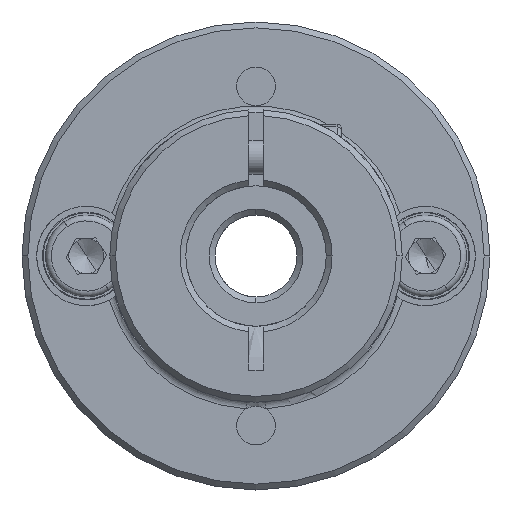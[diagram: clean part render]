
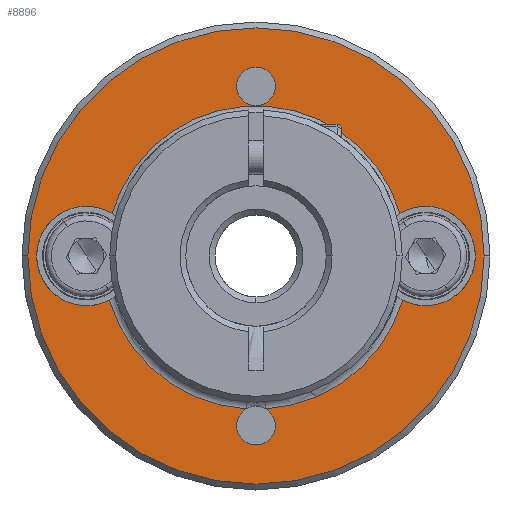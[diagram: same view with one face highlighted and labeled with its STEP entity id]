
A CAD part, front view. The second image highlights one B-rep face of the part: STEP entity #8896.
In plain terms, the highlighted planar face has unit normal (0, -1, 0).
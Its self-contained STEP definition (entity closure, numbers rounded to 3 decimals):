
#79 = DIRECTION ( 'NONE',  ( 1., 0., 0. ) ) ;
#83 = DIRECTION ( 'NONE',  ( 0., 1., 0. ) ) ;
#238 = ORIENTED_EDGE ( 'NONE', *, *, #482, .T. ) ;
#262 = DIRECTION ( 'NONE',  ( 0., 1., 0. ) ) ;
#338 = EDGE_LOOP ( 'NONE', ( #9544, #10048, #1078, #8771, #6401, #1171, #6311, #238, #4527, #6474 ) ) ;
#428 = VERTEX_POINT ( 'NONE', #4419 ) ;
#444 = DIRECTION ( 'NONE',  ( 1., 0., 0. ) ) ;
#482 = EDGE_CURVE ( 'NONE', #3003, #428, #10573, .T. ) ;
#597 = DIRECTION ( 'NONE',  ( 1., 0., 0. ) ) ;
#647 = EDGE_CURVE ( 'NONE', #2196, #12151, #3627, .T. ) ;
#695 = CIRCLE ( 'NONE', #3391, 4.25 ) ;
#730 = VERTEX_POINT ( 'NONE', #4478 ) ;
#771 = ORIENTED_EDGE ( 'NONE', *, *, #8359, .T. ) ;
#883 = EDGE_LOOP ( 'NONE', ( #3316, #11861 ) ) ;
#970 = EDGE_CURVE ( 'NONE', #5764, #7181, #12702, .T. ) ;
#976 = DIRECTION ( 'NONE',  ( 1., 0., 0. ) ) ;
#1076 = CARTESIAN_POINT ( 'NONE',  ( -26.505, -13.63, 40. ) ) ;
#1078 = ORIENTED_EDGE ( 'NONE', *, *, #9602, .T. ) ;
#1171 = ORIENTED_EDGE ( 'NONE', *, *, #2914, .T. ) ;
#1175 = DIRECTION ( 'NONE',  ( 0., 1., 0. ) ) ;
#1205 = FACE_BOUND ( 'NONE', #338, .T. ) ;
#1452 = DIRECTION ( 'NONE',  ( 1., 0., 0. ) ) ;
#1557 = CARTESIAN_POINT ( 'NONE',  ( -12.005, -13.63, 40. ) ) ;
#1794 = CIRCLE ( 'NONE', #2986, 1.65 ) ;
#1808 = CIRCLE ( 'NONE', #3280, 1.65 ) ;
#1918 = CARTESIAN_POINT ( 'NONE',  ( -26.505, -13.63, 40. ) ) ;
#2070 = DIRECTION ( 'NONE',  ( 1., 0., 0. ) ) ;
#2192 = AXIS2_PLACEMENT_3D ( 'NONE', #9812, #9984, #10806 ) ;
#2196 = VERTEX_POINT ( 'NONE', #4887 ) ;
#2230 = DIRECTION ( 'NONE',  ( 1., 0., 0. ) ) ;
#2324 = AXIS2_PLACEMENT_3D ( 'NONE', #1918, #9725, #10807 ) ;
#2608 = DIRECTION ( 'NONE',  ( 1., 0., 0. ) ) ;
#2816 = AXIS2_PLACEMENT_3D ( 'NONE', #6071, #10983, #79 ) ;
#2874 = VERTEX_POINT ( 'NONE', #3696 ) ;
#2914 = EDGE_CURVE ( 'NONE', #5687, #8175, #6591, .T. ) ;
#2979 = PLANE ( 'NONE',  #7662 ) ;
#2986 = AXIS2_PLACEMENT_3D ( 'NONE', #7964, #4162, #7020 ) ;
#3003 = VERTEX_POINT ( 'NONE', #11795 ) ;
#3025 = DIRECTION ( 'NONE',  ( 0., -1., 0. ) ) ;
#3084 = CIRCLE ( 'NONE', #10455, 4.25 ) ;
#3123 = ORIENTED_EDGE ( 'NONE', *, *, #647, .T. ) ;
#3280 = AXIS2_PLACEMENT_3D ( 'NONE', #4629, #11556, #2608 ) ;
#3301 = AXIS2_PLACEMENT_3D ( 'NONE', #9828, #83, #4917 ) ;
#3316 = ORIENTED_EDGE ( 'NONE', *, *, #9572, .T. ) ;
#3391 = AXIS2_PLACEMENT_3D ( 'NONE', #6186, #9922, #2070 ) ;
#3627 = CIRCLE ( 'NONE', #11035, 19.5 ) ;
#3643 = VERTEX_POINT ( 'NONE', #5761 ) ;
#3696 = CARTESIAN_POINT ( 'NONE',  ( -12.834, -13.63, 26.926 ) ) ;
#3718 = EDGE_CURVE ( 'NONE', #3643, #11049, #695, .T. ) ;
#3812 = FACE_OUTER_BOUND ( 'NONE', #8616, .T. ) ;
#3964 = CIRCLE ( 'NONE', #2192, 19.5 ) ;
#4084 = CARTESIAN_POINT ( 'NONE',  ( -12.005, -13.63, 25.5 ) ) ;
#4162 = DIRECTION ( 'NONE',  ( 0., 1., 0. ) ) ;
#4419 = CARTESIAN_POINT ( 'NONE',  ( -13.655, -13.63, 25.5 ) ) ;
#4472 = VERTEX_POINT ( 'NONE', #7029 ) ;
#4475 = CARTESIAN_POINT ( 'NONE',  ( 2.495, -13.63, 40. ) ) ;
#4478 = CARTESIAN_POINT ( 'NONE',  ( -10.355, -13.63, 54.5 ) ) ;
#4527 = ORIENTED_EDGE ( 'NONE', *, *, #6180, .T. ) ;
#4629 = CARTESIAN_POINT ( 'NONE',  ( -12.005, -13.63, 54.5 ) ) ;
#4776 = CARTESIAN_POINT ( 'NONE',  ( 6.745, -13.63, 40. ) ) ;
#4887 = CARTESIAN_POINT ( 'NONE',  ( 7.495, -13.63, 40. ) ) ;
#4917 = DIRECTION ( 'NONE',  ( 1., 0., 0. ) ) ;
#4932 = EDGE_CURVE ( 'NONE', #4472, #5764, #8830, .T. ) ;
#5414 = AXIS2_PLACEMENT_3D ( 'NONE', #12395, #8421, #597 ) ;
#5687 = VERTEX_POINT ( 'NONE', #7343 ) ;
#5761 = CARTESIAN_POINT ( 'NONE',  ( 0.298, -13.63, 43.638 ) ) ;
#5764 = VERTEX_POINT ( 'NONE', #8358 ) ;
#6071 = CARTESIAN_POINT ( 'NONE',  ( -12.005, -13.63, 40. ) ) ;
#6180 = EDGE_CURVE ( 'NONE', #428, #2874, #7437, .T. ) ;
#6186 = CARTESIAN_POINT ( 'NONE',  ( 2.495, -13.63, 40. ) ) ;
#6231 = AXIS2_PLACEMENT_3D ( 'NONE', #10416, #7449, #1452 ) ;
#6311 = ORIENTED_EDGE ( 'NONE', *, *, #7147, .T. ) ;
#6401 = ORIENTED_EDGE ( 'NONE', *, *, #7519, .T. ) ;
#6474 = ORIENTED_EDGE ( 'NONE', *, *, #10864, .T. ) ;
#6476 = DIRECTION ( 'NONE',  ( 0., -1., 0. ) ) ;
#6591 = CIRCLE ( 'NONE', #3301, 13.1 ) ;
#6886 = AXIS2_PLACEMENT_3D ( 'NONE', #4084, #1175, #11072 ) ;
#6912 = CARTESIAN_POINT ( 'NONE',  ( -13.655, -13.63, 54.5 ) ) ;
#6948 = DIRECTION ( 'NONE',  ( 1., 0., 0. ) ) ;
#7012 = DIRECTION ( 'NONE',  ( 1., 0., 0. ) ) ;
#7020 = DIRECTION ( 'NONE',  ( 1., 0., 0. ) ) ;
#7029 = CARTESIAN_POINT ( 'NONE',  ( -24.55, -13.63, 36.226 ) ) ;
#7147 = EDGE_CURVE ( 'NONE', #8175, #3003, #9409, .T. ) ;
#7181 = VERTEX_POINT ( 'NONE', #11329 ) ;
#7343 = CARTESIAN_POINT ( 'NONE',  ( 0.54, -13.63, 36.226 ) ) ;
#7437 = CIRCLE ( 'NONE', #6886, 1.65 ) ;
#7449 = DIRECTION ( 'NONE',  ( 0., 1., 0. ) ) ;
#7494 = AXIS2_PLACEMENT_3D ( 'NONE', #1076, #7911, #7012 ) ;
#7519 = EDGE_CURVE ( 'NONE', #11049, #5687, #3084, .T. ) ;
#7617 = CARTESIAN_POINT ( 'NONE',  ( -11.175, -13.63, 26.926 ) ) ;
#7662 = AXIS2_PLACEMENT_3D ( 'NONE', #11976, #3025, #6948 ) ;
#7817 = DIRECTION ( 'NONE',  ( 0., 1., 0. ) ) ;
#7911 = DIRECTION ( 'NONE',  ( 0., 1., 0. ) ) ;
#7964 = CARTESIAN_POINT ( 'NONE',  ( -12.005, -13.63, 54.5 ) ) ;
#8175 = VERTEX_POINT ( 'NONE', #7617 ) ;
#8358 = CARTESIAN_POINT ( 'NONE',  ( -30.755, -13.63, 40. ) ) ;
#8359 = EDGE_CURVE ( 'NONE', #12151, #2196, #3964, .T. ) ;
#8421 = DIRECTION ( 'NONE',  ( 0., 1., 0. ) ) ;
#8616 = EDGE_LOOP ( 'NONE', ( #771, #3123 ) ) ;
#8659 = EDGE_CURVE ( 'NONE', #730, #8791, #1808, .T. ) ;
#8771 = ORIENTED_EDGE ( 'NONE', *, *, #3718, .T. ) ;
#8791 = VERTEX_POINT ( 'NONE', #6912 ) ;
#8830 = CIRCLE ( 'NONE', #2324, 4.25 ) ;
#8896 = ADVANCED_FACE ( 'NONE', ( #3812, #1205, #9527 ), #2979, .T. ) ;
#9409 = CIRCLE ( 'NONE', #5414, 1.65 ) ;
#9527 = FACE_BOUND ( 'NONE', #883, .T. ) ;
#9544 = ORIENTED_EDGE ( 'NONE', *, *, #4932, .T. ) ;
#9572 = EDGE_CURVE ( 'NONE', #8791, #730, #1794, .T. ) ;
#9602 = EDGE_CURVE ( 'NONE', #7181, #3643, #11971, .T. ) ;
#9675 = CARTESIAN_POINT ( 'NONE',  ( -12.005, -13.63, 25.5 ) ) ;
#9725 = DIRECTION ( 'NONE',  ( 0., 1., 0. ) ) ;
#9812 = CARTESIAN_POINT ( 'NONE',  ( -12.005, -13.63, 40. ) ) ;
#9828 = CARTESIAN_POINT ( 'NONE',  ( -12.005, -13.63, 40. ) ) ;
#9922 = DIRECTION ( 'NONE',  ( 0., 1., 0. ) ) ;
#9984 = DIRECTION ( 'NONE',  ( 0., -1., 0. ) ) ;
#10048 = ORIENTED_EDGE ( 'NONE', *, *, #970, .T. ) ;
#10416 = CARTESIAN_POINT ( 'NONE',  ( -12.005, -13.63, 40. ) ) ;
#10455 = AXIS2_PLACEMENT_3D ( 'NONE', #4475, #262, #2230 ) ;
#10573 = CIRCLE ( 'NONE', #11760, 1.65 ) ;
#10728 = CIRCLE ( 'NONE', #6231, 13.1 ) ;
#10806 = DIRECTION ( 'NONE',  ( 1., 0., 0. ) ) ;
#10807 = DIRECTION ( 'NONE',  ( 1., 0., 0. ) ) ;
#10864 = EDGE_CURVE ( 'NONE', #2874, #4472, #10728, .T. ) ;
#10983 = DIRECTION ( 'NONE',  ( 0., 1., 0. ) ) ;
#11035 = AXIS2_PLACEMENT_3D ( 'NONE', #1557, #6476, #444 ) ;
#11049 = VERTEX_POINT ( 'NONE', #4776 ) ;
#11072 = DIRECTION ( 'NONE',  ( 1., 0., 0. ) ) ;
#11329 = CARTESIAN_POINT ( 'NONE',  ( -24.307, -13.63, 43.638 ) ) ;
#11556 = DIRECTION ( 'NONE',  ( 0., 1., 0. ) ) ;
#11671 = CARTESIAN_POINT ( 'NONE',  ( -31.505, -13.63, 40. ) ) ;
#11760 = AXIS2_PLACEMENT_3D ( 'NONE', #9675, #7817, #976 ) ;
#11795 = CARTESIAN_POINT ( 'NONE',  ( -10.355, -13.63, 25.5 ) ) ;
#11861 = ORIENTED_EDGE ( 'NONE', *, *, #8659, .T. ) ;
#11971 = CIRCLE ( 'NONE', #2816, 12.829 ) ;
#11976 = CARTESIAN_POINT ( 'NONE',  ( -12.005, -13.63, 40. ) ) ;
#12151 = VERTEX_POINT ( 'NONE', #11671 ) ;
#12395 = CARTESIAN_POINT ( 'NONE',  ( -12.005, -13.63, 25.5 ) ) ;
#12702 = CIRCLE ( 'NONE', #7494, 4.25 ) ;
